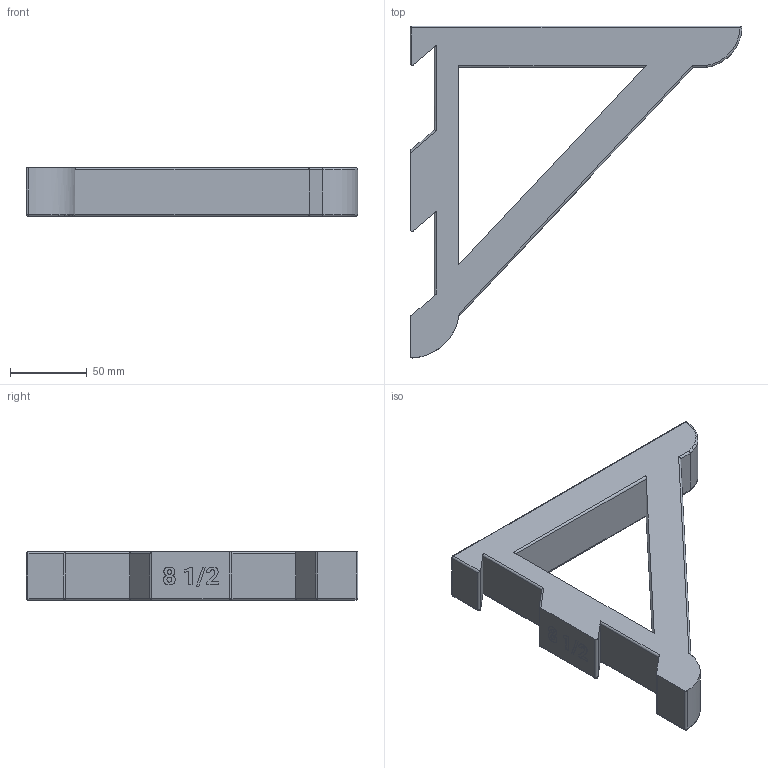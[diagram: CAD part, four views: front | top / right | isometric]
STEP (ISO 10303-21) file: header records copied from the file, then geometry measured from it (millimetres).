
FILE_DESCRIPTION(/* description */ ('STEP AP242','CAx-IF Rec.Pracs.---Representation and Presentation of Product Manufacturing Information (PMI)---4.0---2014-10-13','CAx-IF Rec.Pracs.---3D Tessellated Geometry---0.4---2014-09-14','2;1'),/* implementation_level */ '2;1');
FILE_NAME(/* name */ '677df3db000d703ebf0fe9f9',/* time_stamp */ '2025-01-08T03:41:16Z',/* author */ (''),/* organization */ (''),/* preprocessor_version */ 'ST-DEVELOPER v20',/* originating_system */ 'ONSHAPE BY PTC INC, 1.191',/* authorisation */ ' ');
FILE_SCHEMA (('AP242_MANAGED_MODEL_BASED_3D_ENGINEERING_MIM_LF { 1 0 10303 442 1 1 4 }'));
Length unit declared in the file: metre
Products named in the file (1): Shelf Bracket-8.5
Bounding box: 215.87 x 215.87 x 31.75 mm (x, y, z)
Volume: 454873.9 mm3; surface area: 67286.6 mm2
Topology: 1 solids, 1 shells, 130 faces, 335 edges, 204 vertices
Faces by surface type: bspline 45, plane 41, cylinder 32, sphere 9, torus 3
Entity records: 4021 total; most frequent: CARTESIAN_POINT 1173, ORIENTED_EDGE 652, DIRECTION 460, EDGE_CURVE 326, VERTEX_POINT 204, LINE 176, VECTOR 176, AXIS2_PLACEMENT_3D 142
